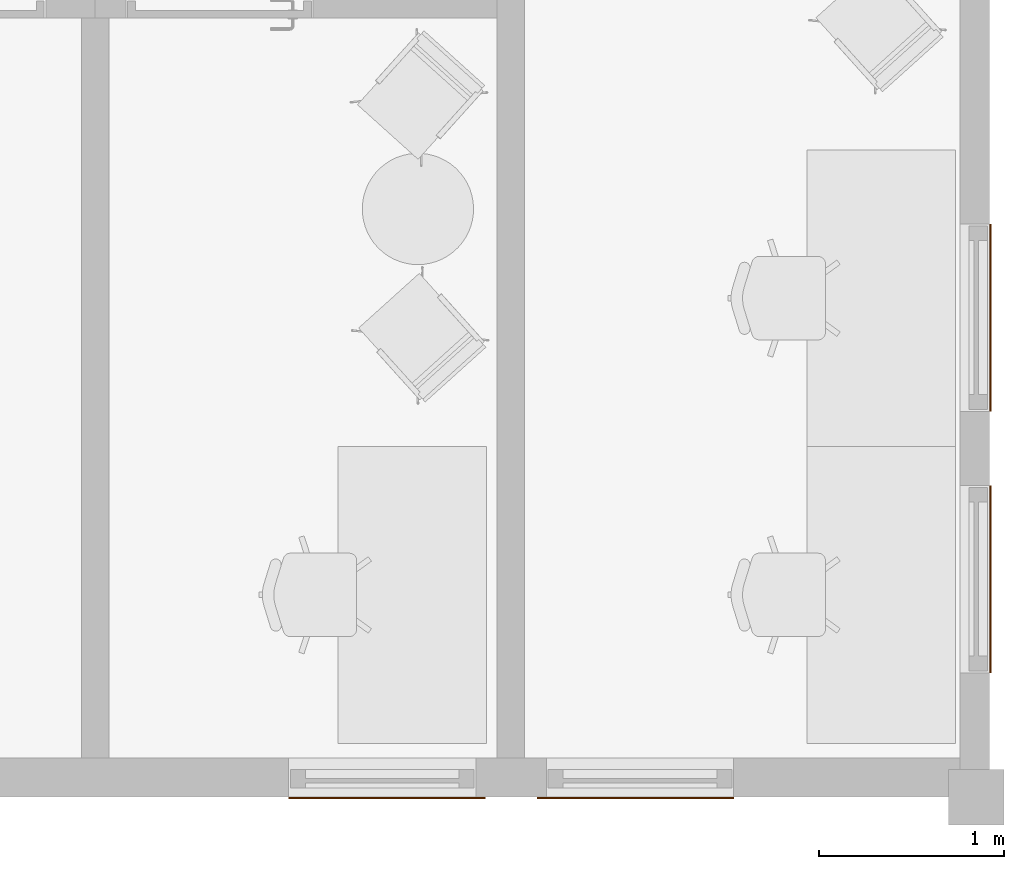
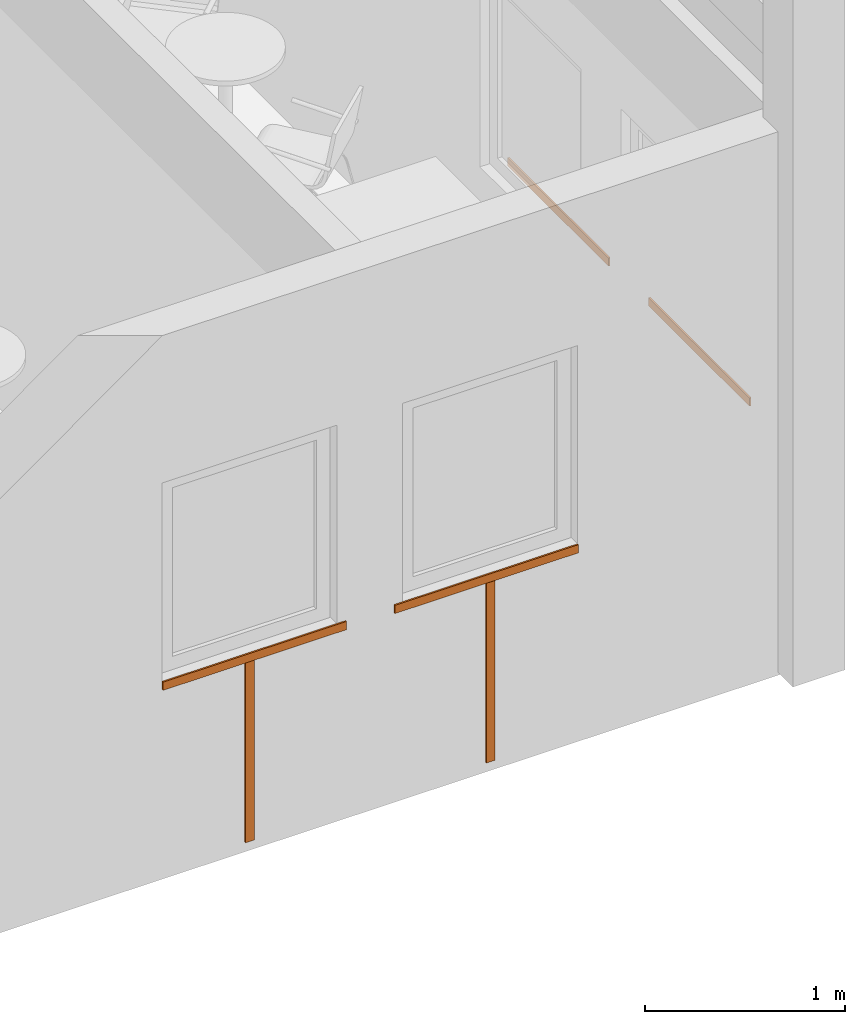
# One storey, part 57 of 58: 6 proxies.
"""IFC2X3 building model written with IfcOpenShell, lengths in millimetres."""

import ifcopenshell
import ifcopenshell.guid

model = None  # the IFC model being written
_history = None  # IfcOwnerHistory: only IFC2X3 demands one
_inside = {}  # id of a spatial element -> (the spatial element, [elements in it])
_under = {}  # id of a project, library or spatial element -> (it, [spatial elements below it])
_declared = {}  # id of a project -> (the project, [libraries it declares])
_typed = {}  # id of a type object -> (the type object, [elements of that type])
_made_of = {}  # id of a material, layer set ... -> (it, [elements and type objects made of it])


def new_model(schema):
    """Start an empty IFC model of exactly this schema.

    Asked for "IFC4X3", IfcOpenShell would pick the latest addendum, in which some entities
    have other attributes; the version numbers below select the first issue.
    IFC2X3 requires an IfcOwnerHistory on every rooted entity: one is made here for all.
    """
    global model, _history
    if schema == "IFC4X3":
        model = ifcopenshell.file(schema_version=(4, 3, 0, 0))
    else:
        model = ifcopenshell.file(schema=schema)
    _inside.clear()
    _under.clear()
    _declared.clear()
    _typed.clear()
    _made_of.clear()
    _history = None
    if model.schema == "IFC2X3":
        org = make("IfcOrganization", Name="unknown")
        user = make(
            "IfcPersonAndOrganization",
            ThePerson=make("IfcPerson", FamilyName="unknown"),
            TheOrganization=org,
        )
        app = make(
            "IfcApplication",
            ApplicationDeveloper=org,
            Version="unknown",
            ApplicationFullName="unknown",
            ApplicationIdentifier="unknown",
        )
        _history = make(
            "IfcOwnerHistory",
            OwningUser=user,
            OwningApplication=app,
            ChangeAction="ADDED",
            CreationDate=0,
        )
    return model


def make(cls, **values):
    """One entity of the class cls with the attributes given. An attribute that is None is left unset."""
    return model.create_entity(
        cls, **{name: value for name, value in values.items() if value is not None}
    )


def entity(cls, *values):
    """Any entity or typed value of the class cls, its attributes in the order of the schema. None: left unset."""
    e = model.create_entity(cls)
    for i, value in enumerate(values):
        if value is not None:
            e[i] = value
    return e


def rooted(cls, **values):
    """An entity with a GlobalId (a new one), such as an element, a storey or a relation."""
    return make(cls, GlobalId=ifcopenshell.guid.new(), OwnerHistory=_history, **values)


def si_unit(unit_type, name, prefix=None):
    """IfcSIUnit, for example si_unit("LENGTHUNIT", "METRE", prefix="MILLI")."""
    return make("IfcSIUnit", UnitType=unit_type, Prefix=prefix, Name=name)


def converted_unit(unit_type, name, factor, base, dimensions=None, offset=None):
    """IfcConversionBasedUnit, such as the inch: factor (a typed value) times the base unit."""
    return make(
        "IfcConversionBasedUnit"
        if offset is None
        else "IfcConversionBasedUnitWithOffset",
        ConversionOffset=offset,
        Dimensions=None
        if dimensions is None
        else entity("IfcDimensionalExponents", *dimensions),
        UnitType=unit_type,
        Name=name,
        ConversionFactor=make(
            "IfcMeasureWithUnit", ValueComponent=factor, UnitComponent=base
        ),
    )


def derived_unit(unit_type, elements):
    """IfcDerivedUnit: a product of units, each with its exponent."""
    return make(
        "IfcDerivedUnit",
        Elements=[
            make("IfcDerivedUnitElement", Unit=unit, Exponent=power)
            for unit, power in elements
        ],
        UnitType=unit_type,
    )


def assignment(units):
    """IfcUnitAssignment: the units of a project."""
    return None if units is None else make("IfcUnitAssignment", Units=units)


def point(xyz):
    """IfcCartesianPoint."""
    return None if xyz is None else make("IfcCartesianPoint", Coordinates=xyz)


def direction(xyz):
    """IfcDirection."""
    return None if xyz is None else make("IfcDirection", DirectionRatios=xyz)


def frame(location, z_axis=None, x_axis=None):
    """IfcAxis2Placement3D, a coordinate frame: its origin and axes. An axis left out is left unset."""
    return make(
        "IfcAxis2Placement3D",
        Location=point(location),
        Axis=direction(z_axis),
        RefDirection=direction(x_axis),
    )


def frame_2d(location, x_axis=None):
    """IfcAxis2Placement2D, a coordinate frame in the plane: its origin and x axis."""
    return make(
        "IfcAxis2Placement2D", Location=point(location), RefDirection=direction(x_axis)
    )


def origin():
    """The frame at (0, 0, 0) with its axes left unset."""
    return frame((0.0, 0.0, 0.0))


def origin_2d_with_axis():
    """The frame at (0, 0) in the plane with the x axis (1, 0) written out."""
    return frame_2d((0.0, 0.0), x_axis=(1.0, 0.0))


def place(relative_to, where):
    """IfcLocalPlacement: puts the frame where relative to a parent placement (None: the world)."""
    return make(
        "IfcLocalPlacement", PlacementRelTo=relative_to, RelativePlacement=where
    )


def context(
    kind, dimensions, precision=None, world=None, true_north=None, identifier=None
):
    """IfcGeometricRepresentationContext, for example the 3D "Model" context."""
    return make(
        "IfcGeometricRepresentationContext",
        ContextIdentifier=identifier,
        ContextType=kind,
        CoordinateSpaceDimension=dimensions,
        Precision=precision,
        WorldCoordinateSystem=world,
        TrueNorth=true_north,
    )


def subcontext(parent, identifier, kind, view, scale=None):
    """IfcGeometricRepresentationSubContext, for example "Body" below "Model"."""
    return make(
        "IfcGeometricRepresentationSubContext",
        ContextIdentifier=identifier,
        ContextType=kind,
        ParentContext=parent,
        TargetScale=scale,
        TargetView=view,
    )


def project(units=None, contexts=None):
    """IfcProject with its units and contexts."""
    return rooted(
        "IfcProject",
        Name="project",
        RepresentationContexts=contexts,
        UnitsInContext=assignment(units),
    )


def spatial(cls, under=None, at=None, **own):
    """A site, building, storey or space (cls), placed at a placement, below another one or the project."""
    s = rooted(cls, ObjectPlacement=at, **own)
    if under is not None:
        _under.setdefault(under.id(), (under, []))[1].append(s)
    return s


def profile(cls, at=None, kind="AREA", **sizes):
    """A parametric profile (cls). Its sizes go by their IFC names, for example OverallWidth=200.0."""
    return make(cls, ProfileType=kind, Position=at, **sizes)


def rectangle(**sizes):
    """IfcRectangleProfileDef."""
    return profile("IfcRectangleProfileDef", **sizes)


def extrude(swept, where, along, depth):
    """IfcExtrudedAreaSolid: the profile swept, set in the frame where, extruded along a direction by depth."""
    return make(
        "IfcExtrudedAreaSolid",
        SweptArea=swept,
        Position=where,
        ExtrudedDirection=direction(along),
        Depth=depth,
    )


def shape(context_of_items, identifier, shape_type, items):
    """IfcShapeRepresentation: the items that make up one representation, for example the "Body"."""
    return make(
        "IfcShapeRepresentation",
        ContextOfItems=context_of_items,
        RepresentationIdentifier=identifier,
        RepresentationType=shape_type,
        Items=items,
    )


def source(mapping_origin, context_of_items, identifier, shape_type, items):
    """IfcRepresentationMap: a shape defined once, which mapped items show again and again."""
    return make(
        "IfcRepresentationMap",
        MappingOrigin=mapping_origin,
        MappedRepresentation=shape(context_of_items, identifier, shape_type, items),
    )


def transform(
    local_origin,
    x_axis=None,
    y_axis=None,
    z_axis=None,
    scale=None,
    scale2=None,
    scale3=None,
    uniform=True,
):
    """IfcCartesianTransformationOperator3D, or its non-uniform kind. x_axis, y_axis, z_axis: its Axis1, 2, 3."""
    if uniform:
        return make(
            "IfcCartesianTransformationOperator3D",
            Axis1=direction(x_axis),
            Axis2=direction(y_axis),
            LocalOrigin=point(local_origin),
            Scale=scale,
            Axis3=direction(z_axis),
        )
    return make(
        "IfcCartesianTransformationOperator3DnonUniform",
        Axis1=direction(x_axis),
        Axis2=direction(y_axis),
        LocalOrigin=point(local_origin),
        Scale=scale,
        Axis3=direction(z_axis),
        Scale2=scale2,
        Scale3=scale3,
    )


def mapped(mapping_source, mapping_target):
    """IfcMappedItem: shows the shape of a source again, moved by a transform."""
    return make(
        "IfcMappedItem", MappingSource=mapping_source, MappingTarget=mapping_target
    )


def material(Name=None, Category=None):
    """IfcMaterial."""
    return make("IfcMaterial", Name=Name, Category=Category)


def made_of(thing, what):
    """Note that an element or type object is made of a material, layer set ...; save() writes the relation."""
    if what is not None:
        _made_of.setdefault(what.id(), (what, []))[1].append(thing)
    return thing


def type_object(cls, material=None, **own):
    """A type object (cls), such as IfcWallType, which elements share."""
    return made_of(rooted(cls, **own), material)


def type_shapes(of_type, sources):
    """Give a type object the sources (RepresentationMaps) that its elements show as mapped items."""
    of_type.RepresentationMaps = sources


def element(
    cls,
    number,
    at=None,
    inside=None,
    cuts=None,
    type_object=None,
    material=None,
    context=None,
    identifier="Body",
    shape_type=None,
    held_by="IfcProductDefinitionShape",
    body=None,
    shapes=None,
    **own,
):
    """One element of the class cls, such as IfcWall. Its Tag is "e" and its number.

    at: its placement. inside: the storey or other place that contains it. cuts: it is an
    opening in that element (IfcRelVoidsElement). A single representation is given by context,
    identifier, shape_type and body (its items); several are given by shapes. held_by: the class
    of the entity that holds the representations. save() writes the other relations.
    """
    e = rooted(cls, Tag="e%d" % number, ObjectPlacement=at, **own)
    if body is not None:
        shapes = [shape(context, identifier, shape_type, body)]
    if shapes is not None:
        e.Representation = make(held_by, Representations=shapes)
    if inside is not None:
        _inside.setdefault(inside.id(), (inside, []))[1].append(e)
    if cuts is not None:
        rooted(
            "IfcRelVoidsElement", RelatingBuildingElement=cuts, RelatedOpeningElement=e
        )
    if type_object is not None:
        _typed.setdefault(type_object.id(), (type_object, []))[1].append(e)
    return made_of(e, material)


def aggregate(whole, parts):
    """IfcRelAggregates: a whole, such as a stair, and the parts it consists of."""
    return rooted("IfcRelAggregates", RelatingObject=whole, RelatedObjects=parts)


def save(model, path):
    """Write the relations noted so far, then the file.

    IfcRelAggregates (storeys below a building ...), IfcRelContainedInSpatialStructure (elements
    in a storey), IfcRelDefinesByType, IfcRelAssociatesMaterial and IfcRelDeclares: one each for
    every whole, place, type object, material and project.
    """
    for whole, parts in _under.values():
        aggregate(whole, parts)
    for where, things in _inside.values():
        rooted(
            "IfcRelContainedInSpatialStructure",
            RelatedElements=things,
            RelatingStructure=where,
        )
    for kind, things in _typed.values():
        rooted("IfcRelDefinesByType", RelatedObjects=things, RelatingType=kind)
    for what, things in _made_of.values():
        rooted("IfcRelAssociatesMaterial", RelatedObjects=things, RelatingMaterial=what)
    for by, libraries in _declared.values():
        rooted("IfcRelDeclares", RelatingContext=by, RelatedDefinitions=libraries)
    model.write(path)


model = new_model("IFC2X3")

# Units and contexts
model_context = context("Model", 3, precision=0.01, world=origin(), true_north=direction((0.7716245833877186, 0.6360782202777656)))
body_context = subcontext(model_context, "Body", "Model", "MODEL_VIEW")
ifc_project = project(units=[si_unit("LENGTHUNIT", "METRE", prefix="MILLI"), si_unit("AREAUNIT", "SQUARE_METRE"), converted_unit("PLANEANGLEUNIT", "DEGREE", entity("IfcPlaneAngleMeasure", 0.017453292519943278), si_unit("PLANEANGLEUNIT", "RADIAN"), dimensions=[0, 0, 0, 0, 0, 0, 0]), derived_unit("THERMALTRANSMITTANCEUNIT", [(si_unit("MASSUNIT", "GRAM", prefix="KILO"), 1), (si_unit("THERMODYNAMICTEMPERATUREUNIT", "KELVIN"), -1), (si_unit("TIMEUNIT", "SECOND"), -3)])], contexts=[model_context])

# Site, building, storey
site_placement = place(None, origin())
site = spatial("IfcSite", under=ifc_project, at=site_placement, Name="Default", CompositionType="ELEMENT")
building_placement = place(site_placement, origin())
building = spatial("IfcBuilding", under=site, at=building_placement, CompositionType="ELEMENT")
storey_placement = place(building_placement, frame((0.0, 0.0, 31140.0)))
storey = spatial("IfcBuildingStorey", under=building, at=storey_placement, Name="PLAN U1", CompositionType="ELEMENT", Elevation=31140.000000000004)

# Proxies
ifc_material = material(Name="Aluminum")
building_element_proxy_type_1 = type_object("IfcBuildingElementProxyType", Name="Fasade profil, VER:Fasade profil 100x50", PredefinedType="NOTDEFINED", material=ifc_material)
shared_shape_1 = source(origin(), body_context, "Body", "SweptSolid", [
    extrude(rectangle(XDim=50.000000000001, YDim=10.000000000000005, at=frame_2d((-2.1316282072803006e-14, 0.0), x_axis=(1.0, 0.0))), frame((25.0, -5.0, 0.0), z_axis=(0.0, 0.0, 1.0), x_axis=(-1.0, 0.0, 0.0)), (0.0, 0.0, 1.0), 1097.6856771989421),
])
type_shapes(building_element_proxy_type_1, [shared_shape_1])
for number, where, name in (
    (1, (276077.84249293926, 53315.25555007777, -257.6856771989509), "Fasade profil, VER:Fasade profil 100x50"),
    (2, (274687.84249293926, 53315.25555007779, -257.6856771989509), "Fasade profil, VER:Fasade profil 100x50"),
):
    element("IfcBuildingElementProxy", number, at=place(storey_placement, frame(where)), inside=storey, type_object=building_element_proxy_type_1, material=ifc_material, Name=name, ObjectType="Fasade profil, VER:Fasade profil 100x50", context=body_context, shape_type="MappedRepresentation", body=[
        mapped(shared_shape_1, transform((0.0, 0.0, 0.0), scale=1.0)),
    ])
building_element_proxy_type_2 = type_object("IfcBuildingElementProxyType", Name="Fasade profil, HOR:Fasade profil 100x50", PredefinedType="NOTDEFINED", material=ifc_material)
shared_shape_2 = source(origin(), body_context, "Body", "SweptSolid", [
    extrude(rectangle(XDim=1009.9999999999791, YDim=9.999999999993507, at=origin_2d_with_axis()), frame((505.0, -5.0, 0.0), z_axis=(0.0, 0.0, 1.0), x_axis=(-1.0, 0.0, 0.0)), (0.0, 0.0, 1.0), 50.00000000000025),
])
type_shapes(building_element_proxy_type_2, [shared_shape_2])
for number, where, z_axis, x_axis, name in (
    (3, (277990.257347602, 53985.25555007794, 840.0), (0.0, 0.0, 1.0), (0.0, 1.0, 0.0), "Fasade profil, HOR:Fasade profil 100x50"),
    (4, (277990.257347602, 55395.255550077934, 840.0), (0.0, 0.0, 1.0), (0.0, 1.0, 0.0), "Fasade profil, HOR:Fasade profil 100x50"),
):
    element("IfcBuildingElementProxy", number, at=place(storey_placement, frame(where, z_axis=z_axis, x_axis=x_axis)), inside=storey, type_object=building_element_proxy_type_2, material=ifc_material, Name=name, ObjectType="Fasade profil, HOR:Fasade profil 100x50", context=body_context, shape_type="MappedRepresentation", body=[
        mapped(shared_shape_2, transform((0.0, 0.0, 0.0), scale=1.0)),
    ])
building_element_proxy_type_3 = type_object("IfcBuildingElementProxyType", Name="Fasade profil, HOR:Fasade profil 100x50", PredefinedType="NOTDEFINED", material=ifc_material)
shared_shape_3 = source(origin(), body_context, "Body", "SweptSolid", [
    extrude(rectangle(XDim=1060.0000000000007, YDim=9.999999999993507, at=origin_2d_with_axis()), frame((530.0, -5.0, 0.0), z_axis=(0.0, 0.0, 1.0), x_axis=(-1.0, 0.0, 0.0)), (0.0, 0.0, 1.0), 50.00000000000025),
])
type_shapes(building_element_proxy_type_3, [shared_shape_3])
for number, where, name in (
    (5, (274210.53647745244, 53315.25555007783, 840.0), "Fasade profil, HOR:Fasade profil 100x50"),
    (6, (275550.5364774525, 53315.255550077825, 840.0), "Fasade profil, HOR:Fasade profil 100x50"),
):
    element("IfcBuildingElementProxy", number, at=place(storey_placement, frame(where)), inside=storey, type_object=building_element_proxy_type_3, material=ifc_material, Name=name, ObjectType="Fasade profil, HOR:Fasade profil 100x50", context=body_context, shape_type="MappedRepresentation", body=[
        mapped(shared_shape_3, transform((0.0, 0.0, 0.0), scale=1.0)),
    ])

save(model, "model.ifc")
